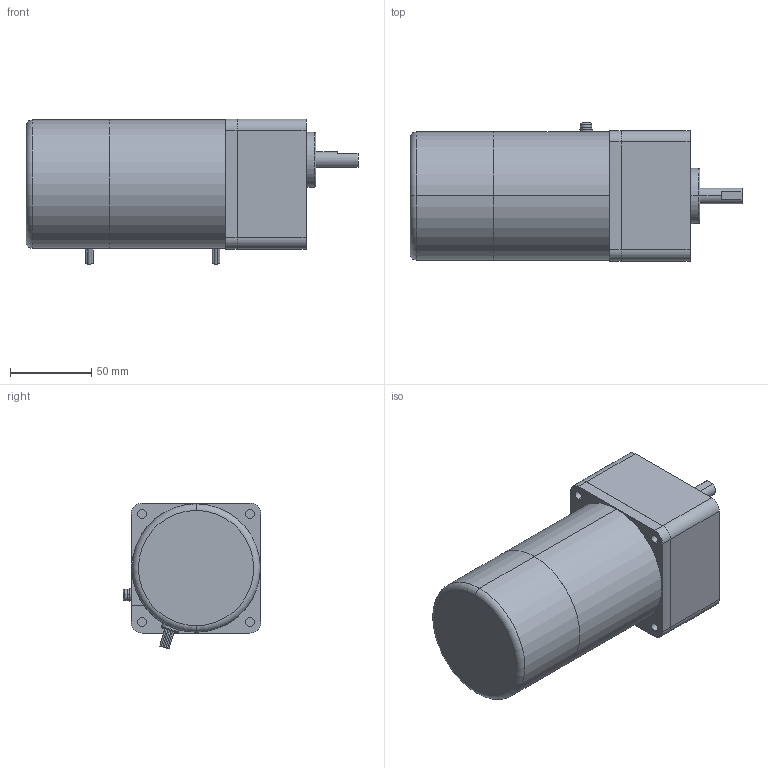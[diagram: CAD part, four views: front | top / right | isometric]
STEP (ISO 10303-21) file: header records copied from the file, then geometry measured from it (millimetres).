
FILE_DESCRIPTION(('starvars output'),'2;1');
FILE_NAME('4RK25GN-CW2ME _ 4GN25SA.stp','14:09:45 2015/05/11',( 'Thomas Industrial Network Germany GmbH'),( 'Thomas Industrial Network Germany GmbH'),'unknown preprocess','ACIS' ,'unknown authorization');
FILE_SCHEMA(('AUTOMOTIVE_DESIGN_CC2 {UNKNOWN IMPLEMENTATION LEVEL}'));
Length unit declared in the file: millimetre
Products named in the file (1): PRODUCT_ID_2284
Bounding box: 204.5 x 85 x 89.76 mm (x, y, z)
Volume: 914938.6 mm3; surface area: 64475.2 mm2
Topology: 1 solids, 1 shells, 121 faces, 268 edges, 176 vertices
Faces by surface type: cylinder 64, plane 47, torus 10
Entity records: 4140 total; most frequent: CARTESIAN_POINT 611, ORIENTED_EDGE 536, DIRECTION 477, EDGE_CURVE 268, AXIS2_PLACEMENT_3D 182, VERTEX_POINT 176, EDGE_LOOP 148, FACE_BOUND 148
